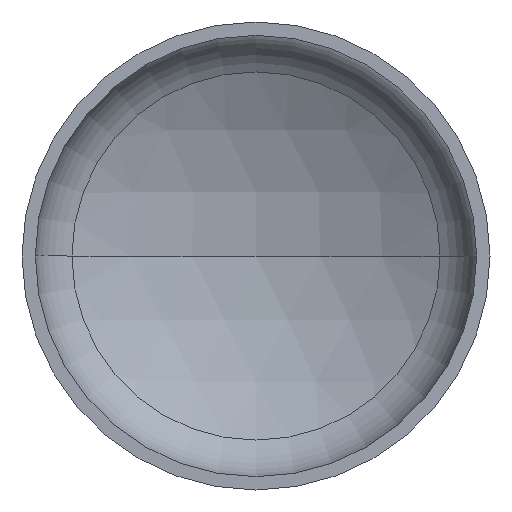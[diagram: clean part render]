
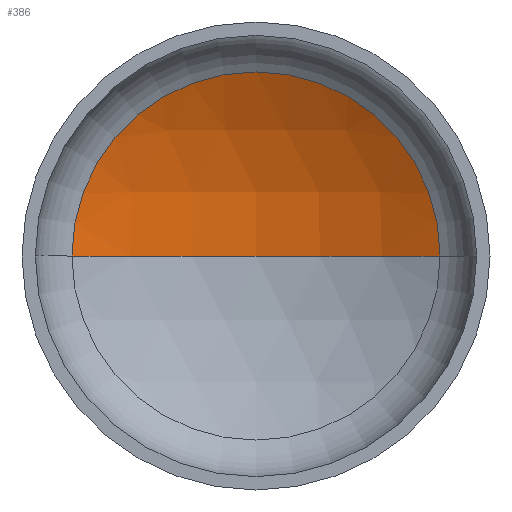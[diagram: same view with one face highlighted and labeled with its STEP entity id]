
A CAD part, front view. The second image highlights one B-rep face of the part: STEP entity #386.
In plain terms, the highlighted spherical face has radius 3200 mm.
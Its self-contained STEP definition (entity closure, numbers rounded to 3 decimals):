
#7 = AXIS2_PLACEMENT_3D ( 'NONE', #25, #189, #195 ) ;
#11 = AXIS2_PLACEMENT_3D ( 'NONE', #98, #99, #105 ) ;
#16 = CARTESIAN_POINT ( 'NONE',  ( -1573.385, 610.526, 0. ) ) ;
#25 = CARTESIAN_POINT ( 'NONE',  ( 0., -2175.952, 0. ) ) ;
#66 = CARTESIAN_POINT ( 'NONE',  ( 0., -2175.952, 0. ) ) ;
#98 = CARTESIAN_POINT ( 'NONE',  ( 0., 610.526, 0. ) ) ;
#99 = DIRECTION ( 'NONE',  ( 0., -1., 0. ) ) ;
#105 = DIRECTION ( 'NONE',  ( 1., 0., 0. ) ) ;
#118 = VERTEX_POINT ( 'NONE', #269 ) ;
#141 = DIRECTION ( 'NONE',  ( 0., 0., -1. ) ) ;
#143 = DIRECTION ( 'NONE',  ( -1., 0., 0. ) ) ;
#158 = ORIENTED_EDGE ( 'NONE', *, *, #309, .T. ) ;
#162 = SPHERICAL_SURFACE ( 'NONE', #388, 3200. ) ;
#178 = CIRCLE ( 'NONE', #7, 3200. ) ;
#189 = DIRECTION ( 'NONE',  ( 0., 0., 1. ) ) ;
#195 = DIRECTION ( 'NONE',  ( 1., 0., 0. ) ) ;
#214 = ORIENTED_EDGE ( 'NONE', *, *, #366, .T. ) ;
#219 = ORIENTED_EDGE ( 'NONE', *, *, #328, .F. ) ;
#235 = FACE_OUTER_BOUND ( 'NONE', #352, .T. ) ;
#255 = DIRECTION ( 'NONE',  ( -1., 0., 0. ) ) ;
#269 = CARTESIAN_POINT ( 'NONE',  ( 0., 1024.048, 0. ) ) ;
#296 = VERTEX_POINT ( 'NONE', #16 ) ;
#309 = EDGE_CURVE ( 'NONE', #343, #296, #338, .T. ) ;
#316 = AXIS2_PLACEMENT_3D ( 'NONE', #322, #141, #143 ) ;
#317 = CIRCLE ( 'NONE', #316, 3200. ) ;
#322 = CARTESIAN_POINT ( 'NONE',  ( 0., -2175.952, 0. ) ) ;
#328 = EDGE_CURVE ( 'NONE', #118, #296, #178, .T. ) ;
#338 = CIRCLE ( 'NONE', #11, 1573.385 ) ;
#343 = VERTEX_POINT ( 'NONE', #372 ) ;
#352 = EDGE_LOOP ( 'NONE', ( #219, #214, #158 ) ) ;
#354 = DIRECTION ( 'NONE',  ( 0., 0., -1. ) ) ;
#366 = EDGE_CURVE ( 'NONE', #118, #343, #317, .T. ) ;
#372 = CARTESIAN_POINT ( 'NONE',  ( 1573.385, 610.526, 0. ) ) ;
#386 = ADVANCED_FACE ( 'NONE', ( #235 ), #162, .F. ) ;
#388 = AXIS2_PLACEMENT_3D ( 'NONE', #66, #354, #255 ) ;
